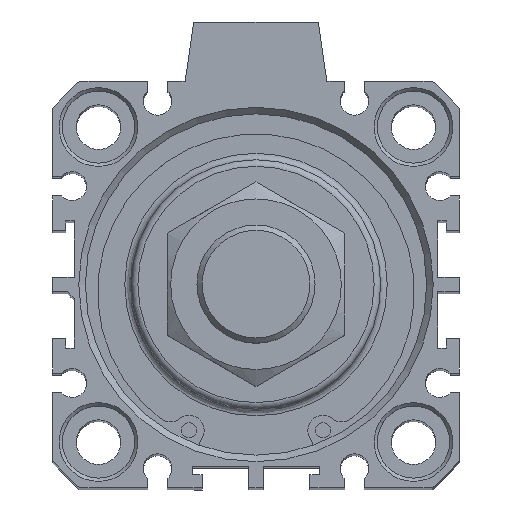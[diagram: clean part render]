
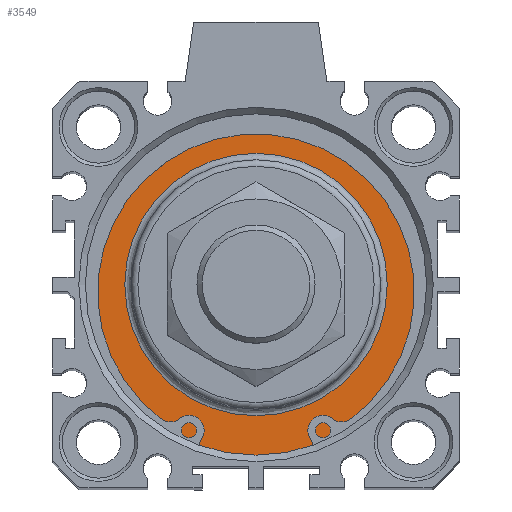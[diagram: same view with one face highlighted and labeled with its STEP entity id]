
A CAD part, top view. The second image highlights one B-rep face of the part: STEP entity #3549.
In plain terms, the highlighted planar face has unit normal (0, 0, 1).
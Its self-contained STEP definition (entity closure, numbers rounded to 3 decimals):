
#3498=CARTESIAN_POINT('',(-0.12,20.837,174.3));
#3499=VERTEX_POINT('',#3498);
#3500=CARTESIAN_POINT('',(-0.12,0.837,174.3));
#3501=DIRECTION('',(0.0,0.0,1.0));
#3502=DIRECTION('',(0.0,-1.0,0.0));
#3503=AXIS2_PLACEMENT_3D('',#3500,#3501,#3502);
#3504=CIRCLE('',#3503,20.);
#3505=EDGE_CURVE('',#3499,#3499,#3504,.T.);
#3530=CARTESIAN_POINT('',(-0.12,23.337,174.3));
#3531=DIRECTION('',(0.0,0.0,1.0));
#3532=DIRECTION('',(1.0,0.0,0.0));
#3533=AXIS2_PLACEMENT_3D('',#3530,#3531,#3532);
#3534=PLANE('',#3533);
#3535=CARTESIAN_POINT('',(-0.12,26.837,174.3));
#3536=VERTEX_POINT('',#3535);
#3537=CARTESIAN_POINT('',(-0.12,0.837,174.3));
#3538=DIRECTION('',(0.0,0.0,-1.0));
#3539=DIRECTION('',(0.0,1.0,0.0));
#3540=AXIS2_PLACEMENT_3D('',#3537,#3538,#3539);
#3541=CIRCLE('',#3540,26.);
#3542=EDGE_CURVE('',#3536,#3536,#3541,.T.);
#3543=ORIENTED_EDGE('',*,*,#3542,.F.);
#3544=EDGE_LOOP('',(#3543));
#3545=FACE_OUTER_BOUND('',#3544,.T.);
#3546=ORIENTED_EDGE('',*,*,#3505,.F.);
#3547=EDGE_LOOP('',(#3546));
#3548=FACE_BOUND('',#3547,.T.);
#3549=ADVANCED_FACE('',(#3545,#3548),#3534,.T.);
